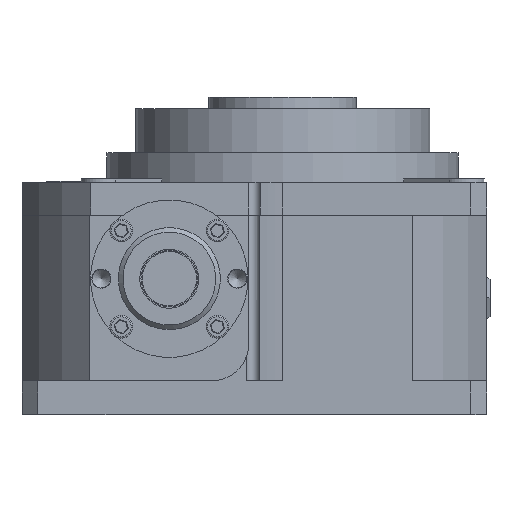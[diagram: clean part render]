
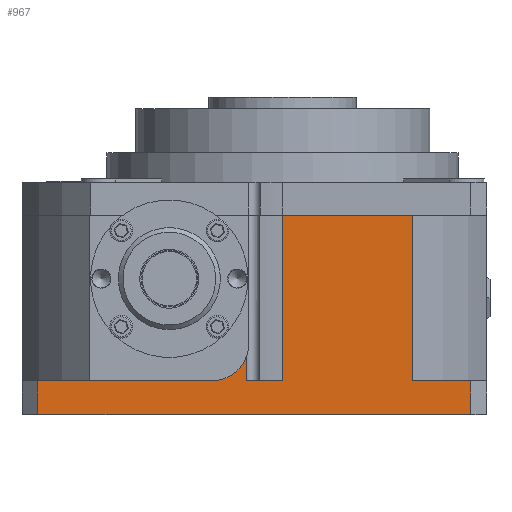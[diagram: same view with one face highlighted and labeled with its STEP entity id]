
A CAD part, left-side view. The second image highlights one B-rep face of the part: STEP entity #967.
In plain terms, the highlighted planar face has unit normal (-1, 0, 0).
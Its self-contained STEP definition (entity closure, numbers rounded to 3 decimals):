
#967 = ADVANCED_FACE( '', ( #2164 ), #2165, .F. );
#2164 = FACE_OUTER_BOUND( '', #4214, .T. );
#2165 = PLANE( '', #4215 );
#4214 = EDGE_LOOP( '', ( #7993, #7994, #7995, #7996, #7997, #7998, #7999, #8000, #8001, #8002, #8003 ) );
#4215 = AXIS2_PLACEMENT_3D( '', #8004, #8005, #8006 );
#7993 = ORIENTED_EDGE( '', *, *, #11987, .F. );
#7994 = ORIENTED_EDGE( '', *, *, #11988, .F. );
#7995 = ORIENTED_EDGE( '', *, *, #11989, .T. );
#7996 = ORIENTED_EDGE( '', *, *, #11990, .F. );
#7997 = ORIENTED_EDGE( '', *, *, #11827, .T. );
#7998 = ORIENTED_EDGE( '', *, *, #11991, .F. );
#7999 = ORIENTED_EDGE( '', *, *, #11992, .T. );
#8000 = ORIENTED_EDGE( '', *, *, #11993, .T. );
#8001 = ORIENTED_EDGE( '', *, *, #11994, .T. );
#8002 = ORIENTED_EDGE( '', *, *, #11995, .F. );
#8003 = ORIENTED_EDGE( '', *, *, #11996, .T. );
#8004 = CARTESIAN_POINT( '', ( -85., 115., 127. ) );
#8005 = DIRECTION( '', ( 1., 0., 0. ) );
#8006 = DIRECTION( '', ( 0., 1., 0. ) );
#11827 = EDGE_CURVE( '', #13576, #13577, #13578, .T. );
#11987 = EDGE_CURVE( '', #13851, #13852, #13853, .T. );
#11988 = EDGE_CURVE( '', #13854, #13851, #13855, .T. );
#11989 = EDGE_CURVE( '', #13854, #13856, #13857, .T. );
#11990 = EDGE_CURVE( '', #13576, #13856, #13858, .F. );
#11991 = EDGE_CURVE( '', #13859, #13577, #13860, .T. );
#11992 = EDGE_CURVE( '', #13859, #13861, #13862, .T. );
#11993 = EDGE_CURVE( '', #13861, #13863, #13864, .T. );
#11994 = EDGE_CURVE( '', #13863, #13865, #13866, .T. );
#11995 = EDGE_CURVE( '', #13867, #13865, #13868, .T. );
#11996 = EDGE_CURVE( '', #13867, #13852, #13869, .T. );
#13576 = VERTEX_POINT( '', #15864 );
#13577 = VERTEX_POINT( '', #15865 );
#13578 = CIRCLE( '', #15866, 16. );
#13851 = VERTEX_POINT( '', #16446 );
#13852 = VERTEX_POINT( '', #16447 );
#13853 = LINE( '', #16448, #16449 );
#13854 = VERTEX_POINT( '', #16450 );
#13855 = LINE( '', #16451, #16452 );
#13856 = VERTEX_POINT( '', #16453 );
#13857 = LINE( '', #16454, #16455 );
#13858 = LINE( '', #16456, #16457 );
#13859 = VERTEX_POINT( '', #16458 );
#13860 = LINE( '', #16459, #16460 );
#13861 = VERTEX_POINT( '', #16461 );
#13862 = LINE( '', #16462, #16463 );
#13863 = VERTEX_POINT( '', #16464 );
#13864 = LINE( '', #16465, #16466 );
#13865 = VERTEX_POINT( '', #16467 );
#13866 = LINE( '', #16468, #16469 );
#13867 = VERTEX_POINT( '', #16470 );
#13868 = LINE( '', #16471, #16472 );
#13869 = LINE( '', #16473, #16474 );
#15864 = CARTESIAN_POINT( '', ( -85., 15.958, 25.547 ) );
#15865 = CARTESIAN_POINT( '', ( -85., 31., 15. ) );
#15866 = AXIS2_PLACEMENT_3D( '', #20444, #20445, #20446 );
#16446 = CARTESIAN_POINT( '', ( -85., 0., 88. ) );
#16447 = CARTESIAN_POINT( '', ( -85., -57.321, 88. ) );
#16448 = CARTESIAN_POINT( '', ( -85., 115., 88. ) );
#16449 = VECTOR( '', #20682, 1000. );
#16450 = CARTESIAN_POINT( '', ( -85., 0., 15. ) );
#16451 = CARTESIAN_POINT( '', ( -85., 0., 15. ) );
#16452 = VECTOR( '', #20683, 1000. );
#16453 = CARTESIAN_POINT( '', ( -85., 15.958, 15. ) );
#16454 = CARTESIAN_POINT( '', ( -85., 115., 15. ) );
#16455 = VECTOR( '', #20684, 1000. );
#16456 = CARTESIAN_POINT( '', ( -85., 15.958, 15. ) );
#16457 = VECTOR( '', #20685, 1000. );
#16458 = CARTESIAN_POINT( '', ( -85., 108., 15. ) );
#16459 = CARTESIAN_POINT( '', ( -85., 115., 15. ) );
#16460 = VECTOR( '', #20686, 1000. );
#16461 = CARTESIAN_POINT( '', ( -85., 108., 0. ) );
#16462 = CARTESIAN_POINT( '', ( -85., 108., 127. ) );
#16463 = VECTOR( '', #20687, 1000. );
#16464 = CARTESIAN_POINT( '', ( -85., -83., 0. ) );
#16465 = CARTESIAN_POINT( '', ( -85., 115., 0. ) );
#16466 = VECTOR( '', #20688, 1000. );
#16467 = CARTESIAN_POINT( '', ( -85., -83., 15. ) );
#16468 = CARTESIAN_POINT( '', ( -85., -83., 127. ) );
#16469 = VECTOR( '', #20689, 1000. );
#16470 = CARTESIAN_POINT( '', ( -85., -57.321, 15. ) );
#16471 = CARTESIAN_POINT( '', ( -85., 115., 15. ) );
#16472 = VECTOR( '', #20690, 1000. );
#16473 = CARTESIAN_POINT( '', ( -85., -57.321, 15. ) );
#16474 = VECTOR( '', #20691, 1000. );
#20444 = CARTESIAN_POINT( '', ( -85., 31., 31. ) );
#20445 = DIRECTION( '', ( 1., 0., 0. ) );
#20446 = DIRECTION( '', ( 0., -1., 0. ) );
#20682 = DIRECTION( '', ( 0., -1., 0. ) );
#20683 = DIRECTION( '', ( 0., 0., 1. ) );
#20684 = DIRECTION( '', ( 0., 1., 0. ) );
#20685 = DIRECTION( '', ( 0., 0., 1. ) );
#20686 = DIRECTION( '', ( 0., -1., 0. ) );
#20687 = DIRECTION( '', ( 0., 0., -1. ) );
#20688 = DIRECTION( '', ( 0., -1., 0. ) );
#20689 = DIRECTION( '', ( 0., 0., 1. ) );
#20690 = DIRECTION( '', ( 0., -1., 0. ) );
#20691 = DIRECTION( '', ( 0., 0., 1. ) );
